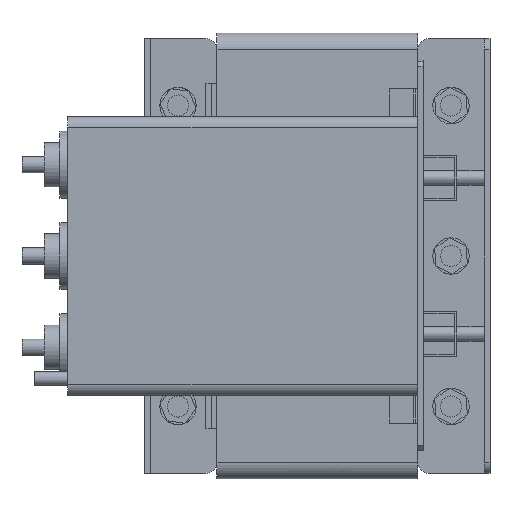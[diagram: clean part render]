
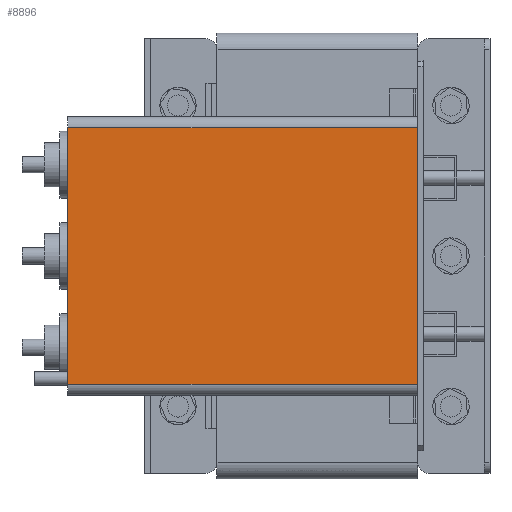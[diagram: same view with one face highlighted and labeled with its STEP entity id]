
A CAD part, left-side view. The second image highlights one B-rep face of the part: STEP entity #8896.
In plain terms, the highlighted planar face has unit normal (-1, 0, 0).
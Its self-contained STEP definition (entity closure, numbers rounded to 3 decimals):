
#407=PLANE('',#9712);
#926=FACE_OUTER_BOUND('',#1509,.T.);
#1509=EDGE_LOOP('',(#7348,#7349,#7350,#7351));
#2233=LINE('',#14003,#3184);
#2272=LINE('',#14108,#3223);
#2273=LINE('',#14111,#3224);
#2274=LINE('',#14112,#3225);
#3184=VECTOR('',#11493,10.);
#3223=VECTOR('',#11594,10.);
#3224=VECTOR('',#11597,10.);
#3225=VECTOR('',#11598,10.);
#4354=VERTEX_POINT('',#14000);
#4355=VERTEX_POINT('',#14002);
#4390=VERTEX_POINT('',#14106);
#4391=VERTEX_POINT('',#14110);
#5392=EDGE_CURVE('',#4354,#4355,#2233,.T.);
#5445=EDGE_CURVE('',#4354,#4390,#2272,.T.);
#5446=EDGE_CURVE('',#4391,#4390,#2273,.T.);
#5447=EDGE_CURVE('',#4355,#4391,#2274,.T.);
#7348=ORIENTED_EDGE('',*,*,#5392,.F.);
#7349=ORIENTED_EDGE('',*,*,#5445,.T.);
#7350=ORIENTED_EDGE('',*,*,#5446,.F.);
#7351=ORIENTED_EDGE('',*,*,#5447,.F.);
#8896=ADVANCED_FACE('',(#926),#407,.T.);
#9712=AXIS2_PLACEMENT_3D('',#14109,#11595,#11596);
#11493=DIRECTION('',(0.,0.,-1.));
#11594=DIRECTION('',(0.,1.,0.));
#11595=DIRECTION('center_axis',(-1.,0.,0.));
#11596=DIRECTION('ref_axis',(0.,0.,
1.));
#11597=DIRECTION('',(0.,0.,1.));
#11598=DIRECTION('',(0.,1.,0.));
#14000=CARTESIAN_POINT('',(-315.,0.,115.));
#14002=CARTESIAN_POINT('',(-315.,0.,-115.));
#14003=CARTESIAN_POINT('',(-315.,0.,35.));
#14106=CARTESIAN_POINT('',(-315.,314.,115.));
#14108=CARTESIAN_POINT('',(-315.,0.,115.));
#14109=CARTESIAN_POINT('Origin',(-315.,0.,-115.));
#14110=CARTESIAN_POINT('',(-315.,314.,-115.));
#14111=CARTESIAN_POINT('',(-315.,314.,-115.));
#14112=CARTESIAN_POINT('',(-315.,0.,-115.));
